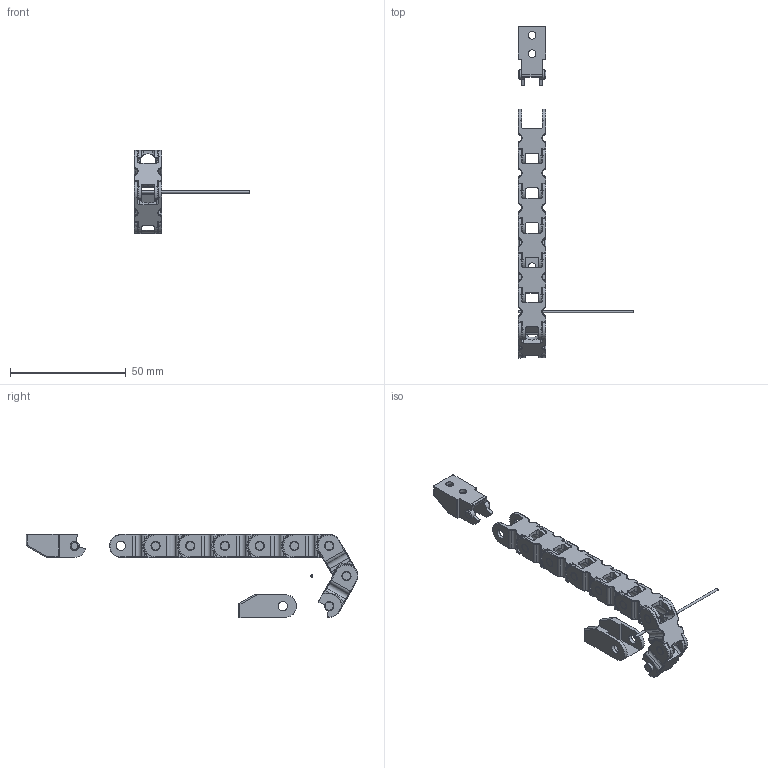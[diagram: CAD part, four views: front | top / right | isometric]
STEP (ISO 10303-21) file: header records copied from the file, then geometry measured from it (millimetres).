
FILE_DESCRIPTION((''),'2;1');
FILE_NAME('C:\Uebbing\PARAMETERKETTEN\KOLIBRI\Kol_10_012_4\KOLIBRI 10_012_4.stp','2011-11-02T10:50:45',('Uebbing'),(''),'Autodesk Inventor 10','Autodesk Inventor 10','');
FILE_SCHEMA(('AUTOMOTIVE_DESIGN { 1 0 10303 214 1 1 1 1 }'));
Length unit declared in the file: millimetre
Products named in the file (5): KOLIBRI 10_012_4; Achse; Kol_10_012_4 Lasche; Kol_10_012_4_Anschluss_Bohrung 1576; Kol_10_012_4_Anschluss_Zapfen 1814
Assembly tree (11 placements, depth 2):
  KOLIBRI 10_012_4
    Achse
    Kol_10_012_4 Lasche  x8
    Kol_10_012_4_Anschluss_Bohrung 1576
    Kol_10_012_4_Anschluss_Zapfen 1814
Bounding box: 50 x 143.5 x 35.98 mm (x, y, z)
Volume: 9426.3 mm3; surface area: 13510.8 mm2
Topology: 11 solids, 11 shells, 1067 faces, 2742 edges, 1633 vertices
Faces by surface type: cylinder 428, plane 317, torus 160, bspline 128, cone 34
Full cylindrical faces by diameter (mm): 1 x1, 3.35 x4, 4 x36
Entity records: 7214 total; most frequent: CARTESIAN_POINT 2408, DIRECTION 1030, ORIENTED_EDGE 932, EDGE_CURVE 466, AXIS2_PLACEMENT_3D 400, VERTEX_POINT 299, VECTOR 230, LINE 230
